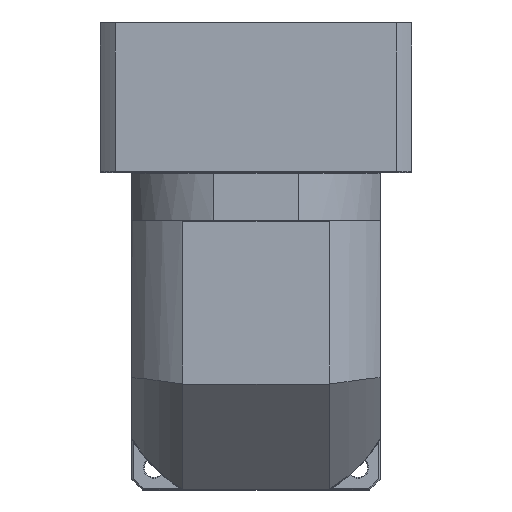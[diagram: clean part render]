
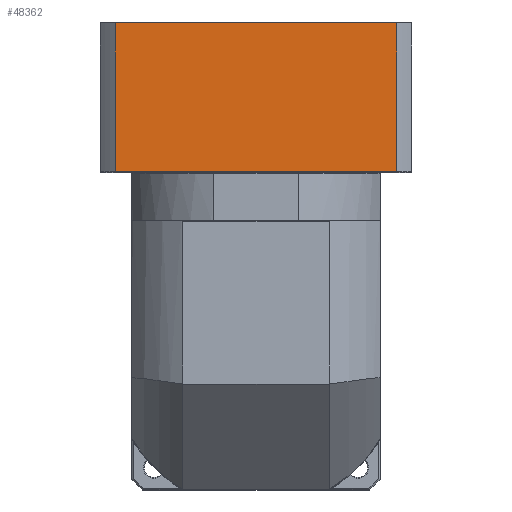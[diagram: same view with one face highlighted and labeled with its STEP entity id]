
A CAD part, top view. The second image highlights one B-rep face of the part: STEP entity #48362.
In plain terms, the highlighted planar face has unit normal (0, 0, 1).
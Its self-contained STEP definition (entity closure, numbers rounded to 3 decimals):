
#6305 = VECTOR ( 'NONE', #78762, 1000. ) ;
#11430 = ORIENTED_EDGE ( 'NONE', *, *, #75935, .F. ) ;
#13072 = VERTEX_POINT ( 'NONE', #125395 ) ;
#18425 = EDGE_LOOP ( 'NONE', ( #58555, #99511, #97291, #11430 ) ) ;
#20182 = CARTESIAN_POINT ( 'NONE',  ( -184.267, 150.191, 106.252 ) ) ;
#21071 = CARTESIAN_POINT ( 'NONE',  ( -23.283, -193.114, 106.252 ) ) ;
#23891 = LINE ( 'NONE', #21071, #55877 ) ;
#34359 = CARTESIAN_POINT ( 'NONE',  ( -32.775, 235.191, 106.252 ) ) ;
#40562 = CARTESIAN_POINT ( 'NONE',  ( -184.267, -193.114, 106.252 ) ) ;
#46286 = AXIS2_PLACEMENT_3D ( 'NONE', #92630, #113072, #50863 ) ;
#48362 = ADVANCED_FACE ( 'NONE', ( #50698 ), #103318, .F. ) ;
#50698 = FACE_OUTER_BOUND ( 'NONE', #18425, .T. ) ;
#50863 = DIRECTION ( 'NONE',  ( 0., -1., 0. ) ) ;
#52851 = DIRECTION ( 'NONE',  ( 0., -1., 0. ) ) ;
#55285 = LINE ( 'NONE', #40562, #74271 ) ;
#55877 = VECTOR ( 'NONE', #52851, 1000. ) ;
#58555 = ORIENTED_EDGE ( 'NONE', *, *, #120530, .F. ) ;
#60014 = VERTEX_POINT ( 'NONE', #61055 ) ;
#60851 = CARTESIAN_POINT ( 'NONE',  ( -184.267, 235.191, 106.252 ) ) ;
#61055 = CARTESIAN_POINT ( 'NONE',  ( -23.283, 150.191, 106.252 ) ) ;
#64220 = DIRECTION ( 'NONE',  ( 1., 0., 0. ) ) ;
#68999 = CARTESIAN_POINT ( 'NONE',  ( -14.775, 150.191, 106.252 ) ) ;
#74254 = VERTEX_POINT ( 'NONE', #60851 ) ;
#74271 = VECTOR ( 'NONE', #125492, 1000. ) ;
#75935 = EDGE_CURVE ( 'NONE', #74254, #13072, #115159, .T. ) ;
#78762 = DIRECTION ( 'NONE',  ( -1., 0., 0. ) ) ;
#85214 = VERTEX_POINT ( 'NONE', #20182 ) ;
#92630 = CARTESIAN_POINT ( 'NONE',  ( -14.775, 235.691, 106.252 ) ) ;
#92845 = VECTOR ( 'NONE', #64220, 1000. ) ;
#94631 = EDGE_CURVE ( 'NONE', #13072, #60014, #23891, .T. ) ;
#95529 = LINE ( 'NONE', #68999, #6305 ) ;
#97291 = ORIENTED_EDGE ( 'NONE', *, *, #94631, .F. ) ;
#99511 = ORIENTED_EDGE ( 'NONE', *, *, #109380, .F. ) ;
#103318 = PLANE ( 'NONE',  #46286 ) ;
#109380 = EDGE_CURVE ( 'NONE', #60014, #85214, #95529, .T. ) ;
#113072 = DIRECTION ( 'NONE',  ( 0., 0., -1. ) ) ;
#115159 = LINE ( 'NONE', #34359, #92845 ) ;
#120530 = EDGE_CURVE ( 'NONE', #85214, #74254, #55285, .T. ) ;
#125395 = CARTESIAN_POINT ( 'NONE',  ( -23.283, 235.191, 106.252 ) ) ;
#125492 = DIRECTION ( 'NONE',  ( 0., 1., 0. ) ) ;
